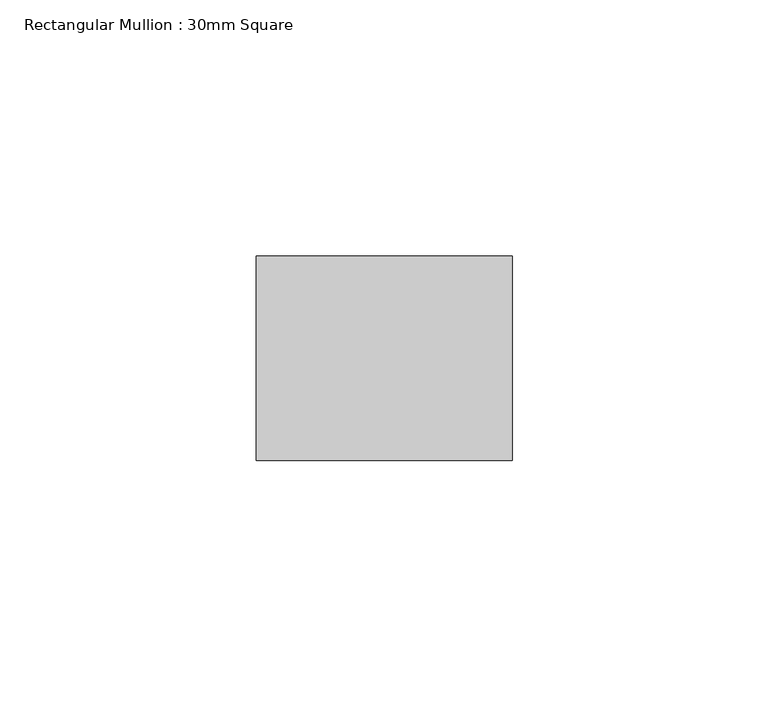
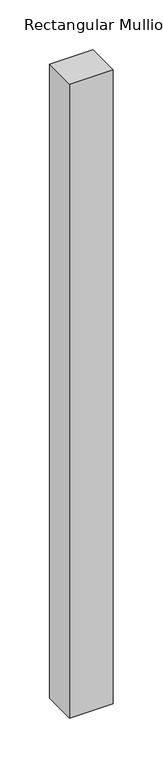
"""IFC4 building model written with IfcOpenShell, lengths in millimetres: member geometry, Rectangular Mullion : 30mm Square."""

from ifc_helpers import new_model, si_unit, frame, origin, place, context, project, spatial, polyline, outline, extrude, source, transform, mapped, element, save


def rectangular_mullion_30mm_square_a3b71786(model_context):
    return source(origin(), model_context, "Body", "SweptSolid", [
        extrude(outline(polyline([(0.0, 20.0), (0.0, -20.0), (-50.0, -20.0), (-50.0, 20.0), (0.0, 20.0)])), frame((0.0, 0.0, -775.0), z_axis=(0.0, 0.0, 1.0), x_axis=(1.0, 0.0, 0.0)), (0.0, 0.0, 1.0), 775.0),
    ])


if __name__ == "__main__":
    model = new_model("IFC4")
    model_context = context("Model", 3, world=origin())
    ifc_project = project(units=[si_unit("LENGTHUNIT", "METRE", prefix="MILLI")], contexts=[model_context])
    site = spatial("IfcSite", under=ifc_project)
    building = spatial("IfcBuilding", under=site)
    placement = place(None, origin())
    rectangular_mullion_30mm_square_shape = rectangular_mullion_30mm_square_a3b71786(model_context)
    element("IfcMember", 1, ObjectType="Rectangular Mullion : 30mm Square", at=placement, inside=building, context=model_context, shape_type="MappedRepresentation", body=[
        mapped(rectangular_mullion_30mm_square_shape, transform((0.0, 0.0, 0.0), x_axis=(1.0, 0.0, 0.0), y_axis=(0.0, 1.0, 0.0), z_axis=(0.0, 0.0, 1.0))),
    ])
    save(model, "model.ifc")
